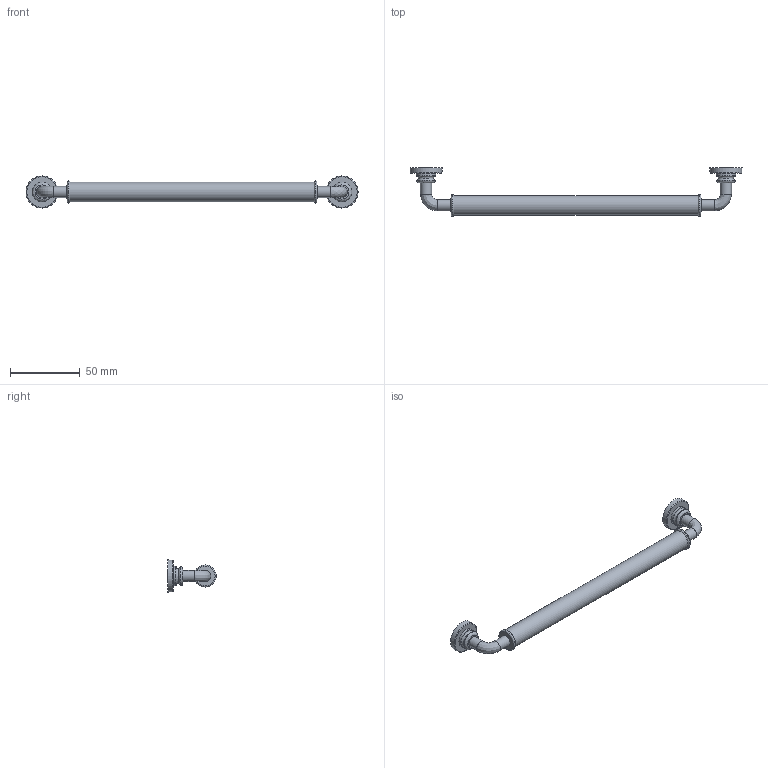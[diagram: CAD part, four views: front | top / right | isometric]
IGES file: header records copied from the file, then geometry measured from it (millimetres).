
Start section: Data from Parasolid IGES Translator 15.0.47, Copyright(c) 2006 Siemens P LM Software. All Rights Reserved.
Global section: file name: 9132272.igs; native system:  By UGS Corp.; preprocessor: XPlus GENERIC/IGES 3.0; author: Noname; organization: Noname; date: 20140122.102108; units: millimetre
Bounding box: 238 x 35 x 23 mm (x, y, z)
Surface area: 12724.5 mm2 (no closed solid volume)
Topology: 0 solids, 0 shells, 50 faces, 228 edges, 188 vertices
Faces by surface type: revolution 42, extrusion 8
